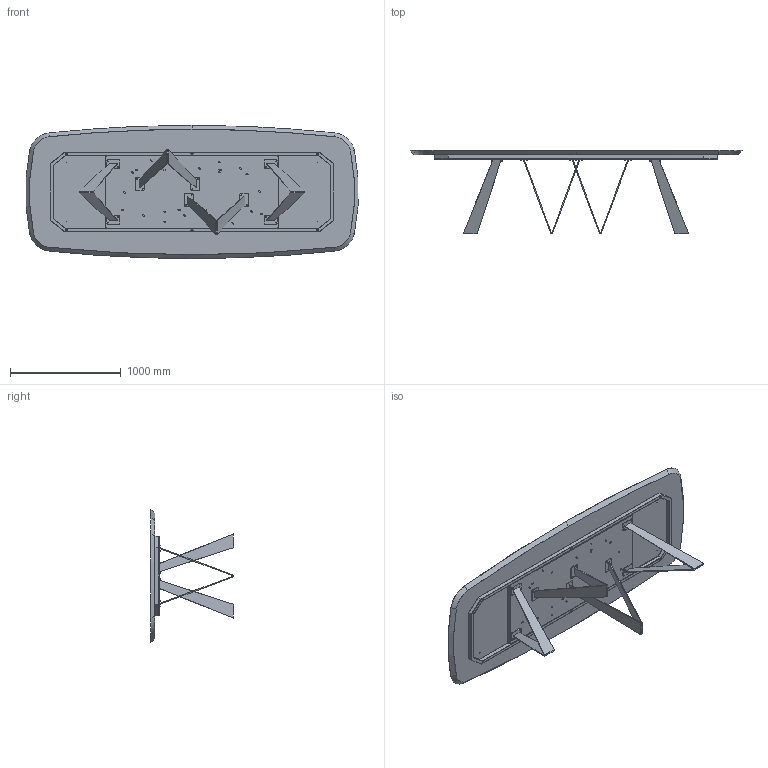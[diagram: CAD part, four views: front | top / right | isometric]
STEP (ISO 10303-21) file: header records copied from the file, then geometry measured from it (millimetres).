
FILE_DESCRIPTION (( 'STEP AP203' ), '1' );
FILE_NAME ('NO44W_Noa_300x120x75h_Wood Shaped.STEP', '2024-08-07T14:28:10', ( '' ), ( '' ), 'SwSTEP 2.0', 'SolidWorks 2022', '' );
FILE_SCHEMA (( 'CONFIG_CONTROL_DESIGN' ));
Length unit declared in the file: millimetre
Products named in the file (13): M8xXXmm_M8x20mm; W4XCMXX-00-Piani Sagomati legno_3000 x 1200; TTAV07-04-TELAIO X TAVOLI PLAI ONDA NOA 300; M8xXXmm_M8x55mm; NO44W_Noa_300x120x75h_Wood Shaped; NOA000001GMB-00-Piastra Principale gamba NOA_Piatto SX; TTAV07_01-04-STRUTTURA TAVOLI PLAI ONDA NOA 300; MAPPA; NOA000001PTRS-00-Piastra rettangoalre con fori; NOA000001GMB-00-Piastra Principale gamba NOA_Piatto DX; Assieme NOA var 3_noa 300-320; NOA000000-00-NOA BASE GREZZA; TTAV07_02-01-VASSOIO TELAIO  PLAI ONDA NOA 300
Assembly tree (35 placements, depth 4):
  NO44W_Noa_300x120x75h_Wood Shaped
    W4XCMXX-00-Piani Sagomati legno_3000 x 1200
    Assieme NOA var 3_noa 300-320
      NOA000000-00-NOA BASE GREZZA  x4
        NOA000001GMB-00-Piastra Principale gamba NOA_Piatto SX
        NOA000001GMB-00-Piastra Principale gamba NOA_Piatto DX
        NOA000001PTRS-00-Piastra rettangoalre con fori
      TTAV07-04-TELAIO X TAVOLI PLAI ONDA NOA 300
        TTAV07_01-04-STRUTTURA TAVOLI PLAI ONDA NOA 300
        TTAV07_02-01-VASSOIO TELAIO  PLAI ONDA NOA 300
    M8xXXmm_M8x55mm  x6
    M8xXXmm_M8x20mm  x16
  MAPPA
Bounding box: 2991.72 x 747.8 x 1200 mm (x, y, z)
Volume: 134088092.9 mm3; surface area: 12264725.1 mm2
Topology: 41 solids, 41 shells, 1361 faces, 3226 edges, 1900 vertices
Faces by surface type: plane 568, cylinder 391, cone 289, torus 97, sphere 16
Entity records: 19270 total; most frequent: DIRECTION 3124, CARTESIAN_POINT 3086, ORIENTED_EDGE 2824, EDGE_CURVE 1412, AXIS2_PLACEMENT_3D 1158, VERTEX_POINT 884, LINE 808, VECTOR 808
